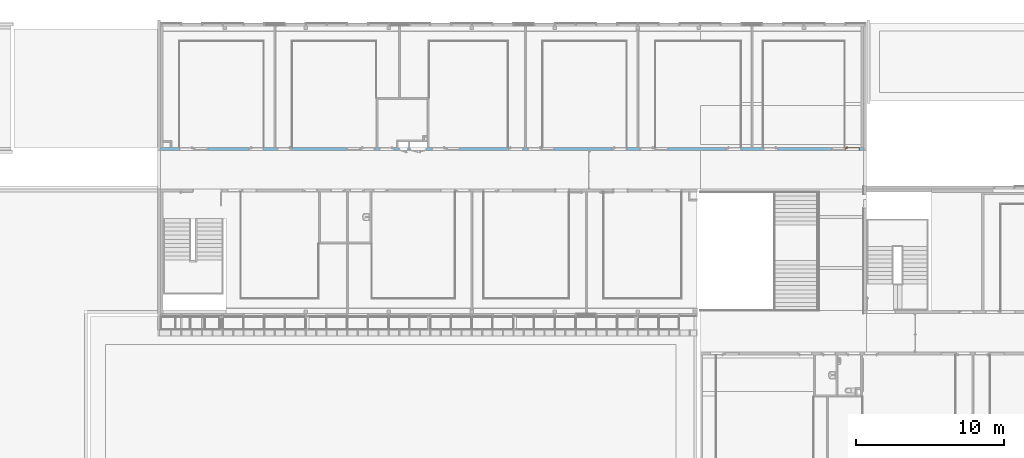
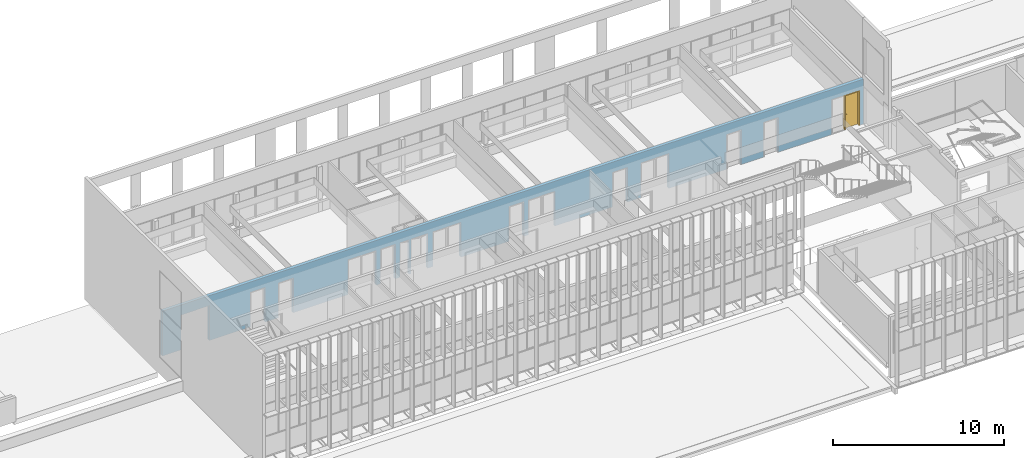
# One storey, part 60 of 106: 1 door, 21 openings, plus 1 element that does not belong to this part.
"""IFC2X3 building model written with IfcOpenShell, lengths in centimetres."""

from ifc_helpers import new_model, entity, si_unit, converted_unit, derived_unit, direction, frame, frame_2d, origin, place, context, subcontext, project, spatial, polyline, rectangle, extrude, clip, bounded_halfspace, faceted_brep, source, transform, mapped, material, material_list, layer, layer_set, layer_usage, type_object, type_shapes, element, fill, save


model = new_model("IFC2X3")

# Units and contexts
model_context = context("Model", 3, precision=0.001, world=origin(), true_north=direction((6.12303176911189e-17, 1.0)))
body_context = subcontext(model_context, "Body", "Model", "MODEL_VIEW")
ifc_project = project(units=[si_unit("LENGTHUNIT", "METRE", prefix="CENTI"), si_unit("AREAUNIT", "SQUARE_METRE"), si_unit("VOLUMEUNIT", "CUBIC_METRE"), converted_unit("PLANEANGLEUNIT", "DEGREE", entity("IfcRatioMeasure", 0.0174532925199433), si_unit("PLANEANGLEUNIT", "RADIAN"), dimensions=[0, 0, 0, 0, 0, 0, 0]), si_unit("MASSUNIT", "GRAM", prefix="KILO"), derived_unit("MASSDENSITYUNIT", [(si_unit("MASSUNIT", "GRAM", prefix="KILO"), 1), (si_unit("LENGTHUNIT", "METRE"), -3)]), si_unit("TIMEUNIT", "SECOND"), si_unit("FREQUENCYUNIT", "HERTZ"), si_unit("THERMODYNAMICTEMPERATUREUNIT", "DEGREE_CELSIUS"), derived_unit("THERMALTRANSMITTANCEUNIT", [(si_unit("MASSUNIT", "GRAM", prefix="KILO"), 1), (si_unit("THERMODYNAMICTEMPERATUREUNIT", "KELVIN"), -1), (si_unit("TIMEUNIT", "SECOND"), -3)]), derived_unit("VOLUMETRICFLOWRATEUNIT", [(si_unit("LENGTHUNIT", "METRE"), 3), (si_unit("TIMEUNIT", "SECOND"), -1)]), si_unit("ELECTRICCURRENTUNIT", "AMPERE"), si_unit("ELECTRICVOLTAGEUNIT", "VOLT"), si_unit("POWERUNIT", "WATT"), si_unit("FORCEUNIT", "NEWTON", prefix="KILO"), si_unit("ILLUMINANCEUNIT", "LUX"), si_unit("LUMINOUSFLUXUNIT", "LUMEN"), si_unit("LUMINOUSINTENSITYUNIT", "CANDELA"), derived_unit("USERDEFINED", [(si_unit("MASSUNIT", "GRAM", prefix="KILO"), -1), (si_unit("LENGTHUNIT", "METRE"), -2), (si_unit("TIMEUNIT", "SECOND"), 3), (si_unit("LUMINOUSFLUXUNIT", "LUMEN"), 1)]), derived_unit("LINEARVELOCITYUNIT", [(si_unit("LENGTHUNIT", "METRE"), 1), (si_unit("TIMEUNIT", "SECOND"), -1)]), si_unit("PRESSUREUNIT", "PASCAL"), derived_unit("USERDEFINED", [(si_unit("LENGTHUNIT", "METRE"), -2), (si_unit("MASSUNIT", "GRAM", prefix="KILO"), 1), (si_unit("TIMEUNIT", "SECOND"), -2)])], contexts=[model_context])

# Site, building, storey
site_placement = place(None, frame((-2781.94577612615, 7442.24238424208, 0.0)))
site = spatial("IfcSite", under=ifc_project, at=site_placement, Name="Default", CompositionType="ELEMENT")
building_placement = place(site_placement, origin())
building = spatial("IfcBuilding", under=site, at=building_placement, CompositionType="ELEMENT")
storey_placement = place(building_placement, frame((0.0, 0.0, 422.0)))
storey = spatial("IfcBuildingStorey", under=building, at=storey_placement, Name="Toiture - Cuisine", CompositionType="ELEMENT", Elevation=421.999999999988)

# Wall, openings, door
ifc_material_1 = material(Name="01 - Maçonnerie")
ifc_layer = layer(ifc_material_1, 20.0)
ifc_layer_set = layer_set([ifc_layer], Name="Mur de base:04 - Structure - béton - 20cm")
ifc_layer_usage = layer_usage(ifc_layer_set, "AXIS2", "NEGATIVE", 10.0)
wall_type = type_object("IfcWallType", Name="Mur de base:04 - Structure - béton - 20cm", PredefinedType="STANDARD", material=ifc_layer_set)
wall_placement = place(building_placement, frame((-8409.49987766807, -820.048500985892, 422.0)))
wall = element("IfcWallStandardCase", 1, at=wall_placement, inside=storey, type_object=wall_type, material=ifc_layer_usage, Name="Mur de base:04 - Structure - béton - 20cm", ObjectType="Mur de base:04 - Structure - béton - 20cm", context=body_context, shape_type="Clipping", body=[
    clip(extrude(rectangle(XDim=4741.49999798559, YDim=20.0, at=frame_2d((2370.74999899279, 2.04281036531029e-14), x_axis=(-1.0, 0.0))), origin(), (0.0, 0.0, 1.0), 321.0), bounded_halfspace(frame((4741.49999798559, -10.0, 321.0), z_axis=(0.0, 0.0, -1.0), x_axis=(0.0, 1.0, 0.0)), True, frame((4741.49999798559, -10.0, 321.0)), polyline([(0.0, 0.0), (0.0, 20.0), (-15.3000000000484, 20.0), (-125.300000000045, 20.0), (-127.300000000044, 20.0), (-675.800000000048, 20.0), (-677.800000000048, 20.0), (-745.800000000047, 20.0), (-755.800000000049, 20.0), (-825.800000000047, 20.0), (-827.800000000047, 20.0), (-1403.80000000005, 20.0), (-1405.80000000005, 20.0), (-1516.49999791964, 20.0), (-1526.49999791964, 20.0), (-1595.78709704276, 20.0), (-1597.78709704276, 20.0), (-2163.80000000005, 20.0), (-2165.80000000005, 20.0), (-2275.80000000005, 20.0), (-2285.80000000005, 20.0), (-2395.80000000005, 20.0), (-2397.80000000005, 20.0), (-2931.80000000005, 20.0), (-2941.80000000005, 20.0), (-3060.80000000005, 20.0), (-3070.80000000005, 20.0), (-3137.80000000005, 20.0), (-3147.80000000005, 20.0), (-3275.80000000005, 20.0), (-3285.80000000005, 20.0), (-3416.49999791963, 20.0), (-3535.80000000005, 20.0), (-3545.80000000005, 20.0), (-3611.80000000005, 20.0), (-3853.80000000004, 20.0), (-3855.80000000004, 20.0), (-3965.80000000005, 20.0), (-3975.80000000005, 20.0), (-4044.30000000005, 20.0), (-4046.30000000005, 20.0), (-4614.19999798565, 20.0), (-4616.19999798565, 20.0), (-4666.19999798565, 20.0), (-4676.19999798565, 20.0), (-4726.19999798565, 20.0), (-4741.49999798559, 20.0), (-4741.49999798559, 0.0), (-1854.0, 0.0), (-1844.0, 0.0), (-1840.0, 0.0), (0.0, 0.0)]))),
])
opening_1_placement = place(wall_placement, frame((1669.50000006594, 10.0, 0.0)))
element("IfcOpeningElement", 2, at=opening_1_placement, cuts=wall, Name="Int. Simple:PP Placard (0.55m x 2.50m):1", ObjectType="Opening", context=body_context, shape_type="SweptSolid", body=[
    extrude(rectangle(XDim=248.500000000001, YDim=61.9999999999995, at=frame_2d((124.250000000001, 30.9999999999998), x_axis=(1.0, 0.0))), frame((0.0, 0.0, 0.0), z_axis=(0.0, -1.0, 0.0), x_axis=(0.0, 0.0, 1.0)), (0.0, 0.0, 1.0), 20.0),
])
opening_2_placement = place(wall_placement, frame((1794.50000006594, 10.0, 0.0)))
element("IfcOpeningElement", 3, at=opening_2_placement, cuts=wall, Name="Int. Double:PP Placard (1.05m x 2.50m):1", ObjectType="Opening", context=body_context, shape_type="SweptSolid", body=[
    extrude(rectangle(XDim=248.500000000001, YDim=112.0, at=frame_2d((124.250000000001, 56.0000000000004), x_axis=(1.0, 0.0))), frame((0.0, 0.0, 0.0), z_axis=(0.0, -1.0, 0.0), x_axis=(0.0, 0.0, 1.0)), (0.0, 0.0, 1.0), 20.0),
])
opening_3_placement = place(wall_placement, frame((126.799999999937, -10.0, 0.0)))
element("IfcOpeningElement", 4, at=opening_3_placement, cuts=wall, Name="Int. Simple:PV (0.93m x 2.50m):1", ObjectType="Opening", context=body_context, shape_type="SweptSolid", body=[
    extrude(rectangle(XDim=248.500000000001, YDim=99.9999999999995, at=frame_2d((124.250000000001, 50.0), x_axis=(1.0, 0.0))), frame((0.0, 0.0, 0.0), z_axis=(0.0, 1.0, 0.0), x_axis=(0.0, 0.0, 1.0)), (0.0, 0.0, 1.0), 20.0),
])
opening_4_placement = place(wall_placement, frame((595.699997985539, -10.0, 0.0)))
element("IfcOpeningElement", 5, at=opening_4_placement, cuts=wall, Name="Int. Simple:PV (0.93m x 2.50m):1", ObjectType="Opening", context=body_context, shape_type="SweptSolid", body=[
    extrude(rectangle(XDim=248.500000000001, YDim=99.9999999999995, at=frame_2d((124.250000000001, 49.9999999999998), x_axis=(1.0, 0.0))), frame((0.0, 0.0, 0.0), z_axis=(0.0, 1.0, 0.0), x_axis=(0.0, 0.0, 1.0)), (0.0, 0.0, 1.0), 20.0),
])
opening_5_placement = place(wall_placement, frame((785.699997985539, -10.0, 0.0)))
element("IfcOpeningElement", 6, at=opening_5_placement, cuts=wall, Name="Int. Simple:PV (0.93m x 2.50m):1", ObjectType="Opening", context=body_context, shape_type="SweptSolid", body=[
    extrude(rectangle(XDim=248.500000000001, YDim=99.9999999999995, at=frame_2d((124.250000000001, 50.0), x_axis=(1.0, 0.0))), frame((0.0, 0.0, 0.0), z_axis=(0.0, 1.0, 0.0), x_axis=(0.0, 0.0, 1.0)), (0.0, 0.0, 1.0), 20.0),
])
opening_6_placement = place(wall_placement, frame((1345.69999798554, -10.0, 0.0)))
element("IfcOpeningElement", 7, at=opening_6_placement, cuts=wall, Name="Int. Simple:PV (0.93m x 2.50m):1", ObjectType="Opening", context=body_context, shape_type="SweptSolid", body=[
    extrude(rectangle(XDim=248.500000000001, YDim=99.9999999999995, at=frame_2d((124.250000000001, 49.9999999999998), x_axis=(1.0, 0.0))), frame((0.0, 0.0, 0.0), z_axis=(0.0, 1.0, 0.0), x_axis=(0.0, 0.0, 1.0)), (0.0, 0.0, 1.0), 20.0),
])
opening_7_placement = place(wall_placement, frame((1475.69999798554, -10.0, 0.0)))
element("IfcOpeningElement", 8, at=opening_7_placement, cuts=wall, Name="Int. Simple:PP simple (0.93m x 2.50m):1", ObjectType="Opening", context=body_context, shape_type="SweptSolid", body=[
    extrude(rectangle(XDim=248.500000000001, YDim=99.9999999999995, at=frame_2d((124.250000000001, 50.0), x_axis=(1.0, 0.0))), frame((0.0, 0.0, 0.0), z_axis=(0.0, 1.0, 0.0), x_axis=(0.0, 0.0, 1.0)), (0.0, 0.0, 1.0), 20.0),
])
opening_8_placement = place(wall_placement, frame((1829.69999798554, -10.0, 0.0)))
element("IfcOpeningElement", 9, at=opening_8_placement, cuts=wall, Name="Int. Simple:PV (0.93m x 2.50m):1", ObjectType="Opening", context=body_context, shape_type="SweptSolid", body=[
    extrude(rectangle(XDim=248.500000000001, YDim=99.9999999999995, at=frame_2d((124.250000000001, 50.0), x_axis=(1.0, 0.0))), frame((0.0, 0.0, 0.0), z_axis=(0.0, 1.0, 0.0), x_axis=(0.0, 0.0, 1.0)), (0.0, 0.0, 1.0), 20.0),
])
opening_9_placement = place(wall_placement, frame((2345.69999798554, -10.0, 0.0)))
element("IfcOpeningElement", 10, at=opening_9_placement, cuts=wall, Name="Int. Simple:PV (0.93m x 2.50m):1", ObjectType="Opening", context=body_context, shape_type="SweptSolid", body=[
    extrude(rectangle(XDim=248.500000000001, YDim=99.9999999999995, at=frame_2d((124.250000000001, 49.9999999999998), x_axis=(1.0, 0.0))), frame((0.0, 0.0, 0.0), z_axis=(0.0, 1.0, 0.0), x_axis=(0.0, 0.0, 1.0)), (0.0, 0.0, 1.0), 20.0),
])
opening_10_placement = place(wall_placement, frame((2475.69999798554, -10.0, 0.0)))
element("IfcOpeningElement", 11, at=opening_10_placement, cuts=wall, Name="Int. Simple:PV (0.93m x 2.50m):1", ObjectType="Opening", context=body_context, shape_type="SweptSolid", body=[
    extrude(rectangle(XDim=248.500000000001, YDim=99.9999999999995, at=frame_2d((124.250000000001, 50.0), x_axis=(1.0, 0.0))), frame((0.0, 0.0, 0.0), z_axis=(0.0, 1.0, 0.0), x_axis=(0.0, 0.0, 1.0)), (0.0, 0.0, 1.0), 20.0),
])
opening_11_placement = place(wall_placement, frame((3045.69999798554, -10.0, 0.0)))
element("IfcOpeningElement", 12, at=opening_11_placement, cuts=wall, Name="Int. Simple:PV (0.93m x 2.50m):1", ObjectType="Opening", context=body_context, shape_type="SweptSolid", body=[
    extrude(rectangle(XDim=248.500000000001, YDim=99.9999999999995, at=frame_2d((124.250000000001, 49.9999999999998), x_axis=(1.0, 0.0))), frame((0.0, 0.0, 0.0), z_axis=(0.0, 1.0, 0.0), x_axis=(0.0, 0.0, 1.0)), (0.0, 0.0, 1.0), 20.0),
])
opening_12_placement = place(wall_placement, frame((3235.69999798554, -10.0, 0.0)))
element("IfcOpeningElement", 13, at=opening_12_placement, cuts=wall, Name="Int. Simple:PV (0.93m x 2.50m):1", ObjectType="Opening", context=body_context, shape_type="SweptSolid", body=[
    extrude(rectangle(XDim=248.500000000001, YDim=99.9999999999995, at=frame_2d((124.250000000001, 50.0), x_axis=(1.0, 0.0))), frame((0.0, 0.0, 0.0), z_axis=(0.0, 1.0, 0.0), x_axis=(0.0, 0.0, 1.0)), (0.0, 0.0, 1.0), 20.0),
])
opening_13_placement = place(wall_placement, frame((3815.69999798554, -10.0, 0.0)))
element("IfcOpeningElement", 14, at=opening_13_placement, cuts=wall, Name="Int. Simple:PV (0.93m x 2.50m):1", ObjectType="Opening", context=body_context, shape_type="SweptSolid", body=[
    extrude(rectangle(XDim=248.500000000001, YDim=99.9999999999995, at=frame_2d((124.250000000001, 49.9999999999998), x_axis=(1.0, 0.0))), frame((0.0, 0.0, 0.0), z_axis=(0.0, 1.0, 0.0), x_axis=(0.0, 0.0, 1.0)), (0.0, 0.0, 1.0), 20.0),
])
opening_14_placement = place(wall_placement, frame((4065.69999798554, -10.0, 0.0)))
element("IfcOpeningElement", 15, at=opening_14_placement, cuts=wall, Name="Int. Simple:PV (0.93m x 2.50m):1", ObjectType="Opening", context=body_context, shape_type="SweptSolid", body=[
    extrude(rectangle(XDim=248.500000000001, YDim=99.9999999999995, at=frame_2d((124.250000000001, 50.0), x_axis=(1.0, 0.0))), frame((0.0, 0.0, 0.0), z_axis=(0.0, 1.0, 0.0), x_axis=(0.0, 0.0, 1.0)), (0.0, 0.0, 1.0), 20.0),
])
opening_15_placement = place(wall_placement, frame((4616.19999798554, -10.0, 0.0)))
opening_15 = element("IfcOpeningElement", 16, at=opening_15_placement, cuts=wall, Name="Int. Simple:PV (0.93m x 2.50m):1", ObjectType="Opening", context=body_context, shape_type="SweptSolid", body=[
    extrude(rectangle(XDim=248.500000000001, YDim=99.9999999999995, at=frame_2d((124.250000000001, 49.9999999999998), x_axis=(1.0, 0.0))), frame((0.0, 0.0, 0.0), z_axis=(0.0, 1.0, 0.0), x_axis=(0.0, 0.0, 1.0)), (0.0, 0.0, 1.0), 20.0),
])
opening_16_placement = place(wall_placement, frame((1255.69999798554, -10.0, 0.0)))
element("IfcOpeningElement", 17, at=opening_16_placement, cuts=wall, Name="châssis intérieur vitré:châssis intérieur vitré (h=270) R+1:1", ObjectType="Opening", context=body_context, shape_type="SweptSolid", body=[
    extrude(rectangle(XDim=250.0, YDim=89.9999999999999, at=frame_2d((125.0, 45.0), x_axis=(1.0, 0.0))), frame((0.0, 0.0, 0.0), z_axis=(0.0, 1.0, 0.0), x_axis=(0.0, 0.0, 1.0)), (0.0, 0.0, 1.0), 20.0),
])
opening_17_placement = place(wall_placement, frame((1929.69999798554, -10.0, 0.0)))
element("IfcOpeningElement", 18, at=opening_17_placement, cuts=wall, Name="châssis intérieur vitré:châssis intérieur vitré (h=270) R+1:1", ObjectType="Opening", context=body_context, shape_type="SweptSolid", body=[
    extrude(rectangle(XDim=250.0, YDim=89.9999999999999, at=frame_2d((125.0, 45.0), x_axis=(1.0, 0.0))), frame((0.0, 0.0, 0.0), z_axis=(0.0, 1.0, 0.0), x_axis=(0.0, 0.0, 1.0)), (0.0, 0.0, 1.0), 20.0),
])
opening_18_placement = place(wall_placement, frame((4526.19999798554, -10.0, 0.0)))
element("IfcOpeningElement", 19, at=opening_18_placement, cuts=wall, Name="châssis intérieur vitré:châssis intérieur vitré (h=270) R+1:1", ObjectType="Opening", context=body_context, shape_type="SweptSolid", body=[
    extrude(rectangle(XDim=250.0, YDim=89.9999999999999, at=frame_2d((125.0, 45.0000000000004), x_axis=(1.0, 0.0))), frame((0.0, 0.0, 0.0), z_axis=(0.0, 1.0, 0.0), x_axis=(0.0, 0.0, 1.0)), (0.0, 0.0, 1.0), 20.0),
])
opening_19_placement = place(wall_placement, frame((3335.69999798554, -10.0, 0.0)))
element("IfcOpeningElement", 20, at=opening_19_placement, cuts=wall, Name="châssis intérieur vitré:châssis intérieur vitré (h=270) R+1:1", ObjectType="Opening", context=body_context, shape_type="SweptSolid", body=[
    extrude(rectangle(XDim=250.0, YDim=89.9999999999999, at=frame_2d((125.0, 45.0000000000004), x_axis=(1.0, 0.0))), frame((0.0, 0.0, 0.0), z_axis=(0.0, 1.0, 0.0), x_axis=(0.0, 0.0, 1.0)), (0.0, 0.0, 1.0), 20.0),
])
opening_20_placement = place(wall_placement, frame((2565.69999798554, -10.0, 0.0)))
element("IfcOpeningElement", 21, at=opening_20_placement, cuts=wall, Name="châssis intérieur vitré:châssis intérieur vitré (h=270) R+1:1", ObjectType="Opening", context=body_context, shape_type="SweptSolid", body=[
    extrude(rectangle(XDim=250.0, YDim=89.9999999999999, at=frame_2d((125.0, 45.0000000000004), x_axis=(1.0, 0.0))), frame((0.0, 0.0, 0.0), z_axis=(0.0, 1.0, 0.0), x_axis=(0.0, 0.0, 1.0)), (0.0, 0.0, 1.0), 20.0),
])
opening_21_placement = place(wall_placement, frame((226.799999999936, -10.0, 0.0)))
element("IfcOpeningElement", 22, at=opening_21_placement, cuts=wall, Name="châssis intérieur vitré:châssis intérieur vitré (h=270) R+1:1", ObjectType="Opening", context=body_context, shape_type="SweptSolid", body=[
    extrude(rectangle(XDim=250.0, YDim=91.4999999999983, at=frame_2d((125.0, 45.7499999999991), x_axis=(1.0, 0.0))), frame((0.0, 0.0, 0.0), z_axis=(0.0, 1.0, 0.0), x_axis=(0.0, 0.0, 1.0)), (0.0, 0.0, 1.0), 20.0),
])
ifc_material_2 = material(Name="Finition Peinture - Blanc satiné")
ifc_material_3 = material(Name="Bois - Panneau de porte")
ifc_material_4 = material(Name="Bois - Cadre de porte")
ifc_material_list_1 = material_list([ifc_material_2, ifc_material_3, ifc_material_4])
ifc_material_list_2 = material_list([ifc_material_2, ifc_material_3, ifc_material_4])
door_style = type_object("IfcDoorStyle", Name="PV (0.93m x 2.50m)", ConstructionType="NOTDEFINED", OperationType="SINGLE_SWING_RIGHT", ParameterTakesPrecedence=False, Sizeable=False, material=ifc_material_list_2)
shared_shape = source(origin(), body_context, "Body", "Brep", [
    faceted_brep([(99.5000000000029, -0.500000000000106, 87.0), (99.5000000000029, -0.500000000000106, 108.0), (98.535276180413, -0.500000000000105, 108.399601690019), (97.5000000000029, -0.500000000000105, 108.535898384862), (96.4647238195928, -0.500000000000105, 108.399601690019), (95.500000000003, -0.500000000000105, 108.0), (95.5000000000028, -0.500000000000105, 87.0), (96.4647238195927, -0.500000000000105, 86.6003983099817), (97.5000000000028, -0.500000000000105, 86.464101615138), (98.5352761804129, -0.500000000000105, 86.6003983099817), (99.5000000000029, 0.0, 108.0), (99.5000000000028, 0.0, 87.0), (98.5352761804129, 0.0, 86.6003983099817), (97.5000000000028, 0.0, 86.464101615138), (96.4647238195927, 0.0, 86.6003983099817), (95.5000000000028, 0.0, 87.0), (95.5000000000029, 0.0, 108.0), (96.4647238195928, 0.0, 108.399601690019), (97.5000000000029, 0.0, 108.535898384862), (98.535276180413, 0.0, 108.399601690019)], [[[0, 1, 2, 3, 4, 5, 6, 7, 8, 9]], [[10, 11, 12, 13, 14, 15, 16, 17, 18, 19]], [[9, 12, 11, 0]], [[8, 13, 12, 9]], [[7, 14, 13, 8]], [[7, 6, 15, 14]], [[15, 6, 5, 16]], [[4, 17, 16, 5]], [[3, 18, 17, 4]], [[2, 19, 18, 3]], [[2, 1, 10, 19]], [[11, 10, 1, 0]]]),
    faceted_brep([(99.5000000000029, 4.0, 87.0), (99.5000000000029, 4.0, 108.0), (98.535276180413, 4.0, 108.399601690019), (97.5000000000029, 4.0, 108.535898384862), (96.4647238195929, 4.0, 108.399601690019), (95.500000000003, 4.0, 108.0), (95.5000000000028, 4.0, 87.0), (96.4647238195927, 4.0, 86.6003983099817), (97.5000000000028, 4.0, 86.464101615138), (98.5352761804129, 4.0, 86.6003983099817), (97.5000000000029, 4.49999999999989, 108.535898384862), (98.535276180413, 4.49999999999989, 108.399601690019), (99.5000000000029, 4.49999999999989, 108.0), (99.5000000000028, 4.49999999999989, 87.0), (98.5352761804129, 4.49999999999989, 86.6003983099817), (97.5000000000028, 4.49999999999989, 86.464101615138), (96.4647238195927, 4.49999999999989, 86.6003983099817), (95.5000000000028, 4.49999999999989, 87.0), (95.500000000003, 4.49999999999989, 108.0), (96.4647238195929, 4.49999999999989, 108.399601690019)], [[[0, 1, 2, 3, 4, 5, 6, 7, 8, 9]], [[10, 11, 12, 13, 14, 15, 16, 17, 18, 19]], [[4, 19, 18, 5]], [[3, 10, 19, 4]], [[2, 11, 10, 3]], [[2, 1, 12, 11]], [[13, 12, 1, 0]], [[9, 14, 13, 0]], [[8, 15, 14, 9]], [[7, 16, 15, 8]], [[7, 6, 17, 16]], [[17, 6, 5, 18]]]),
    faceted_brep([(97.2974701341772, -0.500000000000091, 100.778044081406), (97.7025298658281, -0.500000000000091, 100.778044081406), (98.1000000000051, -0.500000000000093, 100.699999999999), (98.100000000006, -0.500000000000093, 99.2999999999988), (97.7025298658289, -0.500000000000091, 99.221955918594), (97.297470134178, -0.500000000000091, 99.2219559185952), (96.9000000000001, -0.500000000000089, 99.3000000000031), (96.9000000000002, -0.500000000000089, 100.7), (97.7025298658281, -3.10045754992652, 100.778044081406), (98.1000000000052, -3.26509507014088, 100.7), (97.2974701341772, -2.93267631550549, 100.778044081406), (95.9298602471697, -4.30028620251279, 100.778044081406), (96.0976414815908, -4.70534593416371, 100.778044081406), (96.9000000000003, -2.76803879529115, 100.7), (96.9000000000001, -2.76803879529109, 99.3000000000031), (97.297470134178, -2.93267631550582, 99.2219559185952), (97.7025298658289, -3.10045754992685, 99.221955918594), (96.0976414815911, -4.70534593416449, 99.221955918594), (95.9298602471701, -4.30028620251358, 99.2219559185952), (98.100000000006, -3.26509507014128, 99.2999999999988), (96.2622790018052, -5.1028160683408, 100.7), (95.7652227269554, -3.90281606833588, 100.7), (95.7652227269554, -3.90281606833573, 99.3000000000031), (96.2622790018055, -5.10281606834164, 99.2999999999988), (87.4981359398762, -5.10281606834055, 100.7), (87.4981359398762, -4.70534593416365, 100.778044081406), (87.4981359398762, -4.30028620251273, 100.778044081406), (87.4981359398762, -3.90281606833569, 100.699999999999), (87.4981359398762, -3.90281606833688, 99.3000000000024), (87.4981359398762, -4.30028620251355, 99.2219559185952), (87.4981359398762, -4.70534593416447, 99.221955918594), (87.4981359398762, -5.10281606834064, 99.2999999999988), (91.7139980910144, -4.5028160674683, 100.78786867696), (92.2692302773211, -5.1028160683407, 100.7), (91.6316793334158, -3.9028160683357, 100.7), (91.631679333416, -3.90281606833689, 99.3000000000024), (91.7139981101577, -4.50281607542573, 99.2121313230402), (92.2692310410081, -5.10281606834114, 99.2999999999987)], [[[0, 1, 2, 3, 4, 5, 6, 7]], [[2, 1, 8, 9]], [[1, 0, 10, 11, 12, 8]], [[0, 7, 13, 10]], [[14, 13, 7, 6]], [[5, 15, 14, 6]], [[5, 4, 16, 17, 18, 15]], [[3, 19, 16, 4]], [[9, 19, 3, 2]], [[9, 8, 12, 20]], [[10, 13, 21, 11]], [[22, 21, 13, 14]], [[14, 15, 18, 22]], [[16, 19, 23, 17]], [[20, 23, 19, 9]], [[24, 25, 26, 27, 28, 29, 30, 31]], [[32, 25, 33]], [[33, 25, 24]], [[33, 20, 12]], [[11, 34, 32]], [[34, 11, 21]], [[27, 26, 34]], [[32, 26, 25]], [[32, 34, 26]], [[32, 33, 12]], [[11, 32, 12]], [[21, 22, 35, 28, 27, 34]], [[36, 29, 35]], [[30, 36, 37]], [[18, 35, 22]], [[29, 28, 35]], [[30, 37, 31]], [[37, 17, 23]], [[36, 17, 37]], [[36, 18, 17]], [[36, 35, 18]], [[29, 36, 30]], [[23, 20, 33, 24, 31, 37]]]),
    faceted_brep([(97.2974701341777, 4.49999999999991, 99.2219559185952), (97.7025298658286, 4.49999999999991, 99.221955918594), (98.1000000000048, 4.4999999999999, 99.2999999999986), (98.1000000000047, 4.4999999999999, 100.7), (97.7025298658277, 4.49999999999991, 100.778044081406), (97.2974701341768, 4.49999999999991, 100.778044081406), (96.8999999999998, 4.49999999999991, 100.7), (96.900000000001, 4.49999999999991, 99.3000000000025), (96.8999999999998, 6.7485204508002, 100.7), (96.8999999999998, 6.74852045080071, 99.3000000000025), (97.2974701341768, 6.91315797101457, 100.778044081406), (97.7025298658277, 7.0809392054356, 100.778044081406), (96.0838906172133, 8.69957845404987, 100.778044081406), (95.9161093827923, 8.29451872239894, 100.778044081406), (98.1000000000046, 7.24557672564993, 100.7), (98.1000000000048, 7.24557672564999, 99.2999999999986), (97.7025298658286, 7.08093920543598, 99.221955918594), (97.2974701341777, 6.91315797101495, 99.2219559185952), (95.9161093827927, 8.29451872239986, 99.2219559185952), (96.0838906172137, 8.69957845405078, 99.221955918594), (95.751471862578, 7.89704858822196, 100.7), (95.7514718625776, 7.89704858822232, 99.3000000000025), (96.2485281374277, 9.09704858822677, 100.7), (96.2485281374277, 9.09704858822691, 99.2999999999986), (87.4954216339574, 8.29451872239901, 100.778044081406), (87.4954216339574, 8.69957845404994, 100.778044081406), (87.4954216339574, 9.09704858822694, 100.7), (87.4954216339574, 9.09704858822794, 99.2999999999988), (87.4954216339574, 8.6995784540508, 99.221955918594), (87.4954216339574, 8.29451872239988, 99.2219559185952), (87.4954216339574, 7.89704858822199, 99.3000000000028), (87.4954216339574, 7.89704858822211, 100.7), (91.6234467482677, 7.89704858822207, 100.7), (91.6234479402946, 7.89704858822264, 99.3000000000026), (91.7057655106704, 8.49704858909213, 100.78786867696), (92.255479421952, 9.09704858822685, 100.7), (92.2554795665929, 9.09704858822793, 99.2999999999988), (91.7057654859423, 8.49704858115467, 99.2121313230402)], [[[0, 1, 2, 3, 4, 5, 6, 7]], [[8, 9, 7, 6]], [[5, 10, 8, 6]], [[5, 4, 11, 12, 13, 10]], [[3, 14, 11, 4]], [[14, 3, 2, 15]], [[2, 1, 16, 15]], [[1, 0, 17, 18, 19, 16]], [[0, 7, 9, 17]], [[20, 21, 9, 8]], [[8, 10, 13, 20]], [[14, 22, 12, 11]], [[23, 22, 14, 15]], [[15, 16, 19, 23]], [[17, 9, 21, 18]], [[24, 25, 26, 27, 28, 29, 30, 31]], [[21, 20, 32, 31, 30, 33]], [[34, 24, 32]], [[25, 34, 35]], [[13, 32, 20]], [[24, 31, 32]], [[25, 35, 26]], [[35, 12, 22]], [[34, 12, 35]], [[34, 13, 12]], [[34, 32, 13]], [[24, 34, 25]], [[22, 23, 36, 27, 26, 35]], [[37, 28, 36]], [[36, 28, 27]], [[36, 23, 19]], [[18, 33, 37]], [[33, 18, 21]], [[30, 29, 33]], [[37, 29, 28]], [[37, 33, 29]], [[37, 36, 19]], [[18, 37, 19]]]),
    faceted_brep([(103.500000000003, 4.0, 245.0), (103.500000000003, 4.0, 0.0), (10.5000000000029, 4.0, 0.0), (10.5000000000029, 4.0, 245.0), (103.500000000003, 0.0, 245.0), (10.5000000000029, 0.0, 245.0), (10.5000000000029, 0.0, 0.0), (103.500000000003, 0.0, 0.0)], [[[0, 1, 2, 3]], [[4, 5, 6, 7]], [[3, 5, 4, 0]], [[2, 6, 5, 3]], [[1, 7, 6, 2]], [[0, 4, 7, 1]]]),
    faceted_brep([(107.0, 20.0, 0.0), (107.0, 0.0, 0.0), (108.500000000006, 0.0, 0.0), (108.500000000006, -0.500000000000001, 0.0), (103.500000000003, -0.500000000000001, 0.0), (103.500000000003, 4.0, 0.0), (102.0, 4.0, 0.0), (102.0, 20.5000000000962, 0.0), (108.500000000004, 20.5000000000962, 0.0), (108.500000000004, 20.0, 0.0), (108.500000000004, 20.0, 250.0), (5.50000000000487, 20.0, 250.0), (5.50000000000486, 20.0, 0.0), (7.0, 20.0, 0.0), (7.0, 20.0, 248.500000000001), (107.0, 20.0, 248.500000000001), (108.500000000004, 20.5000000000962, 250.0), (102.0, 20.5000000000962, 243.5), (12.0, 20.5000000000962, 243.5), (12.0, 20.5000000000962, 0.0), (5.50000000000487, 20.5000000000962, 0.0), (5.50000000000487, 20.5000000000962, 250.0), (102.0, 4.0, 243.5), (103.500000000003, 4.0, 245.0), (10.5000000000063, 4.0, 245.0), (10.5000000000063, 4.0, 0.0), (12.0, 4.0, 0.0), (12.0, 4.0, 243.5), (103.500000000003, -0.500000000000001, 245.0), (108.500000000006, -0.500000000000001, 250.0), (5.5000000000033, -0.500000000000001, 250.0), (5.50000000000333, -0.500000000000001, 0.0), (10.5000000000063, -0.500000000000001, 0.0), (10.5000000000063, -0.500000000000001, 245.0), (108.500000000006, 0.0, 250.0), (107.0, 0.0, 248.500000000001), (7.0, 0.0, 248.500000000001), (7.0, 0.0, 0.0), (5.5000000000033, 0.0, 0.0), (5.50000000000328, 0.0, 250.0)], [[[0, 1, 2, 3, 4, 5, 6, 7, 8, 9]], [[9, 10, 11, 12, 13, 14, 15, 0]], [[8, 16, 10, 9]], [[7, 17, 18, 19, 20, 21, 16, 8]], [[7, 6, 22, 17]], [[5, 23, 24, 25, 26, 27, 22, 6]], [[5, 4, 28, 23]], [[3, 29, 30, 31, 32, 33, 28, 4]], [[2, 34, 29, 3]], [[1, 35, 36, 37, 38, 39, 34, 2]], [[0, 15, 35, 1]], [[14, 13, 37, 36]], [[13, 12, 20, 19, 26, 25, 32, 31, 38, 37]], [[21, 20, 12, 11]], [[27, 26, 19, 18]], [[33, 32, 25, 24]], [[39, 38, 31, 30]], [[16, 21, 11, 10]], [[22, 27, 18, 17]], [[28, 33, 24, 23]], [[34, 39, 30, 29]], [[15, 14, 36, 35]]]),
])
type_shapes(door_style, [shared_shape])
door_placement = place(opening_15_placement, frame((107.0, 20.0, 0.0), z_axis=(0.0, 0.0, 1.0), x_axis=(-1.0, 0.0, 0.0)))
door = element("IfcDoor", 23, at=door_placement, inside=storey, type_object=door_style, material=ifc_material_list_1, Name="Int. Simple:PV (0.93m x 2.50m)", ObjectType="Int. Simple:PV (0.93m x 2.50m)", OverallHeight=248.500000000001, OverallWidth=99.9999999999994, context=body_context, shape_type="MappedRepresentation", body=[
    mapped(shared_shape, transform((0.0, 0.0, 0.0), scale=1.0)),
])
fill(opening_15, door)

save(model, "model.ifc")
